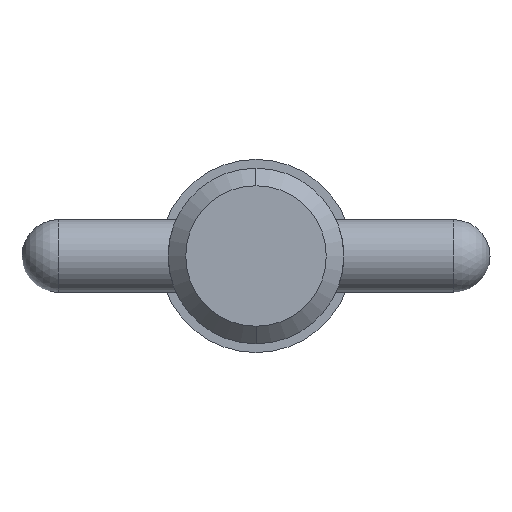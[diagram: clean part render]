
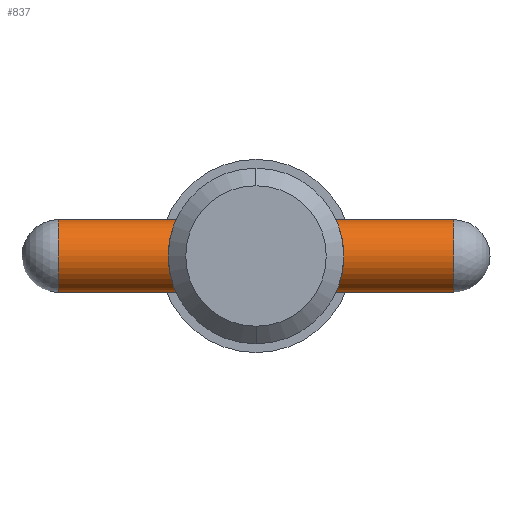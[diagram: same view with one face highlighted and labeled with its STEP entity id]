
A CAD part, left-side view. The second image highlights one B-rep face of the part: STEP entity #837.
In plain terms, the highlighted cylindrical face has radius 1.98 mm (diameter 3.96 mm), a partial arc.
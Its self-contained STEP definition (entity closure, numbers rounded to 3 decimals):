
#19 = VECTOR ( 'NONE', #291, 1000. ) ;
#123 = CIRCLE ( 'NONE', #815, 1.98 ) ;
#148 = CARTESIAN_POINT ( 'NONE',  ( 0., 10.72, -1.98 ) ) ;
#176 = VECTOR ( 'NONE', #900, 1000. ) ;
#192 = ORIENTED_EDGE ( 'NONE', *, *, #335, .T. ) ;
#206 = CARTESIAN_POINT ( 'NONE',  ( 0., -10.72, 0. ) ) ;
#284 = ORIENTED_EDGE ( 'NONE', *, *, #421, .F. ) ;
#291 = DIRECTION ( 'NONE',  ( 0., -1., 0. ) ) ;
#309 = VERTEX_POINT ( 'NONE', #148 ) ;
#335 = EDGE_CURVE ( 'NONE', #491, #309, #123, .T. ) ;
#346 = AXIS2_PLACEMENT_3D ( 'NONE', #206, #452, #788 ) ;
#395 = CYLINDRICAL_SURFACE ( 'NONE', #514, 1.98 ) ;
#414 = DIRECTION ( 'NONE',  ( 0., 0., -1. ) ) ;
#421 = EDGE_CURVE ( 'NONE', #491, #879, #887, .T. ) ;
#438 = EDGE_LOOP ( 'NONE', ( #284, #192, #775, #497 ) ) ;
#452 = DIRECTION ( 'NONE',  ( 0., 1., 0. ) ) ;
#489 = CARTESIAN_POINT ( 'NONE',  ( 0., 12.7, 1.98 ) ) ;
#491 = VERTEX_POINT ( 'NONE', #652 ) ;
#497 = ORIENTED_EDGE ( 'NONE', *, *, #751, .T. ) ;
#514 = AXIS2_PLACEMENT_3D ( 'NONE', #720, #573, #414 ) ;
#573 = DIRECTION ( 'NONE',  ( 0., -1., 0. ) ) ;
#596 = CIRCLE ( 'NONE', #346, 1.98 ) ;
#603 = LINE ( 'NONE', #864, #19 ) ;
#652 = CARTESIAN_POINT ( 'NONE',  ( 0., 10.72, 1.98 ) ) ;
#671 = VERTEX_POINT ( 'NONE', #1013 ) ;
#673 = EDGE_CURVE ( 'NONE', #309, #671, #603, .T. ) ;
#696 = CARTESIAN_POINT ( 'NONE',  ( 0., 10.72, 0. ) ) ;
#720 = CARTESIAN_POINT ( 'NONE',  ( 0., 12.7, 0. ) ) ;
#727 = FACE_OUTER_BOUND ( 'NONE', #438, .T. ) ;
#751 = EDGE_CURVE ( 'NONE', #671, #879, #596, .T. ) ;
#775 = ORIENTED_EDGE ( 'NONE', *, *, #673, .T. ) ;
#786 = DIRECTION ( 'NONE',  ( 0., -1., 0. ) ) ;
#788 = DIRECTION ( 'NONE',  ( 0., 0., -1. ) ) ;
#815 = AXIS2_PLACEMENT_3D ( 'NONE', #696, #786, #867 ) ;
#837 = ADVANCED_FACE ( 'NONE', ( #727 ), #395, .T. ) ;
#864 = CARTESIAN_POINT ( 'NONE',  ( 0., 12.7, -1.98 ) ) ;
#867 = DIRECTION ( 'NONE',  ( 0., 0., -1. ) ) ;
#879 = VERTEX_POINT ( 'NONE', #897 ) ;
#887 = LINE ( 'NONE', #489, #176 ) ;
#897 = CARTESIAN_POINT ( 'NONE',  ( 0., -10.72, 1.98 ) ) ;
#900 = DIRECTION ( 'NONE',  ( 0., -1., 0. ) ) ;
#1013 = CARTESIAN_POINT ( 'NONE',  ( 0., -10.72, -1.98 ) ) ;
